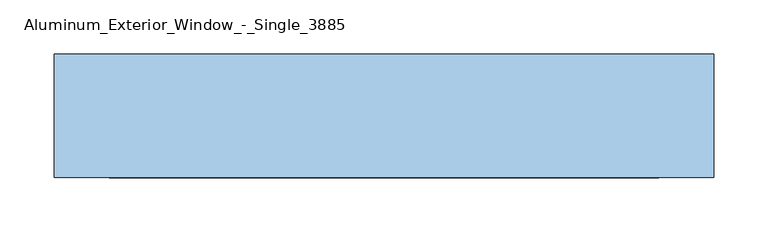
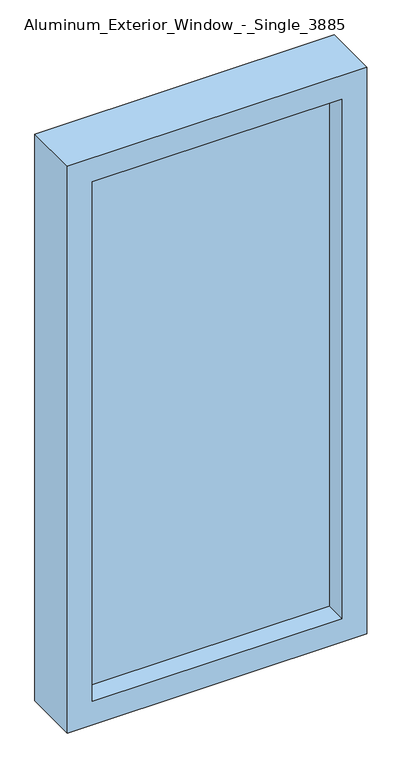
"""IFC4 building model written with IfcOpenShell, lengths in millimetres: window geometry."""

from ifc_helpers import new_model, si_unit, frame, origin, place, context, project, spatial, polyline, outline, extrude, source, transform, mapped, element, save


def aluminum_exterior_window_single_3885_e2dbf674(model_context):
    return source(origin(), model_context, "Body", "SweptSolid", [
        extrude(outline(polyline([(-101.6, 109.1075246), (406.4, 109.1075246), (406.4, 83.7075246), (-101.6, 83.7075246), (-101.6, 109.1075246)])), frame((0.0, 0.0, 1066.8), z_axis=(0.0, 0.0, 1.0), x_axis=(1.0, 0.0, 0.0)), (0.0, 0.0, 1.0), 1117.6),
        extrude(outline(polyline([(2235.2, -152.4), (1016.0, -152.4), (1016.0, 457.2), (2235.2, 457.2), (2235.2, -152.4)]), holes=[polyline([(2184.4, -101.6), (2184.4, 406.4), (1066.8, 406.4), (1066.8, -101.6), (2184.4, -101.6)])]), frame((0.0, 39.2575246, 0.0), z_axis=(0.0, 1.0, 0.0), x_axis=(0.0, 0.0, 1.0)), (0.0, 0.0, 1.0), 114.3),
    ])


if __name__ == "__main__":
    model = new_model("IFC4")
    model_context = context("Model", 3, world=origin())
    ifc_project = project(units=[si_unit("LENGTHUNIT", "METRE", prefix="MILLI")], contexts=[model_context])
    site = spatial("IfcSite", under=ifc_project)
    building = spatial("IfcBuilding", under=site)
    placement = place(None, origin())
    aluminum_exterior_window_single_3885_shape = aluminum_exterior_window_single_3885_e2dbf674(model_context)
    element("IfcWindow", 1, ObjectType="Aluminum_Exterior_Window_-_Single_3885 : 24\"W. x 48\"H.", at=placement, inside=building, context=model_context, shape_type="MappedRepresentation", body=[
        mapped(aluminum_exterior_window_single_3885_shape, transform((0.0, 0.0, 0.0), x_axis=(1.0, 0.0, 0.0), y_axis=(0.0, 1.0, 0.0), z_axis=(0.0, 0.0, 1.0))),
    ])
    save(model, "model.ifc")
